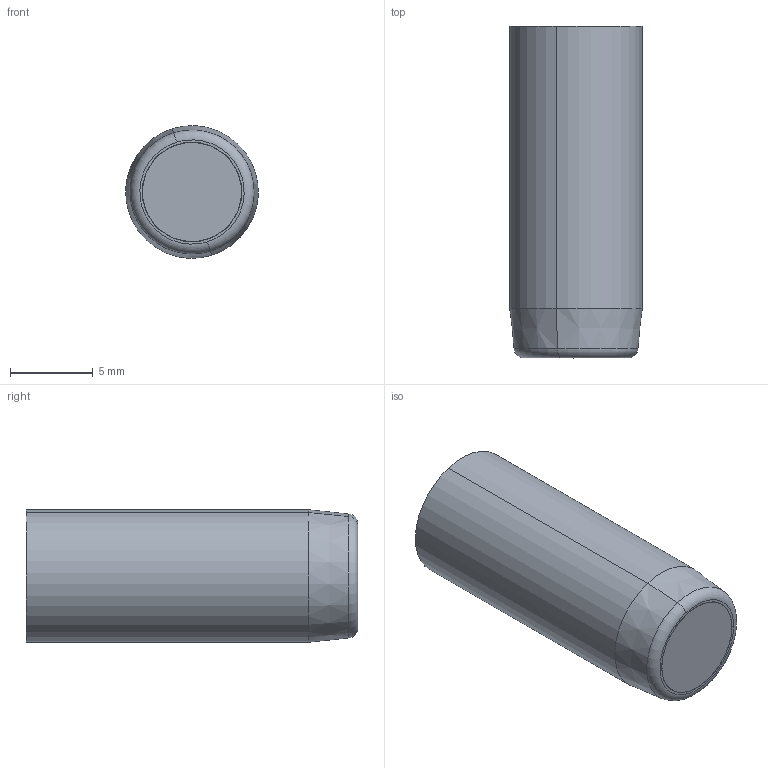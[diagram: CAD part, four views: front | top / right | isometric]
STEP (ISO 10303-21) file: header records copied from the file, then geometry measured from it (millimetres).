
FILE_DESCRIPTION (( 'STEP AP214' ), '1' );
FILE_NAME ('FA 084705-21.STEP', '2020-08-11T09:01:38', ( '' ), ( '' ), 'SwSTEP 2.0', 'SolidWorks 2019', '' );
FILE_SCHEMA (( 'AUTOMOTIVE_DESIGN' ));
Length unit declared in the file: millimetre
Products named in the file (6): DFA 084700-1; DIA 4717SF; DFA 084700-3; DFA 084700-2 comprimido; FA 084705-21; DFA 084705-14-1
Assembly tree (5 placements, depth 2):
  FA 084705-21
    DFA 084705-14-1
    DFA 084700-1
    DIA 4717SF
    DFA 084700-3
    DFA 084700-2 comprimido
Bounding box: 7.99 x 20 x 7.99 mm (x, y, z)
Volume: 847.3 mm3; surface area: 1508.6 mm2
Topology: 5 solids, 5 shells, 257 faces, 653 edges, 422 vertices
Faces by surface type: plane 107, bspline 81, cylinder 31, cone 24, torus 12, sphere 2
Entity records: 13001 total; most frequent: CARTESIAN_POINT 7043, ORIENTED_EDGE 1302, DIRECTION 939, EDGE_CURVE 651, VERTEX_POINT 422, VECTOR 343, LINE 343, AXIS2_PLACEMENT_3D 298
